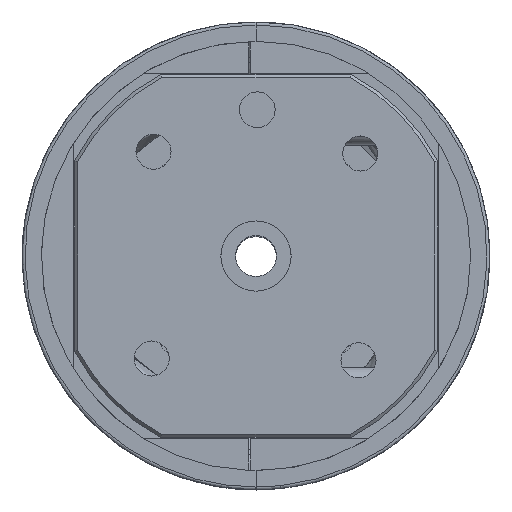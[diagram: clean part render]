
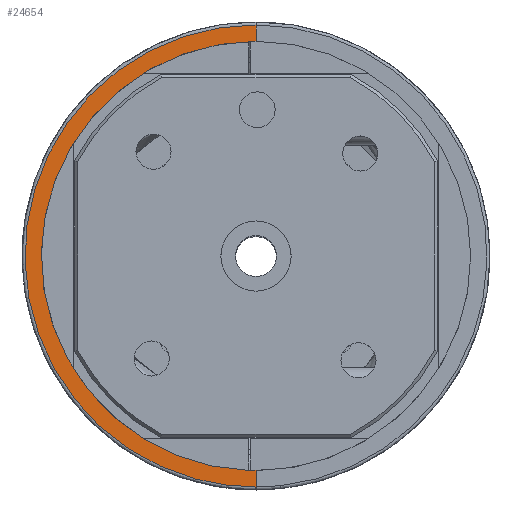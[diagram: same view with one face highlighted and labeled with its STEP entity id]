
A CAD part, top view. The second image highlights one B-rep face of the part: STEP entity #24654.
In plain terms, the highlighted planar face has unit normal (0, 0, 1) by its records, which use the part's own axes.
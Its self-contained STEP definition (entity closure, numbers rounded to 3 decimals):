
#194 = DIRECTION ( 'NONE',  ( 0., 0., -1. ) ) ;
#318 = CARTESIAN_POINT ( 'NONE',  ( -560.383, 708.451, 159.256 ) ) ;
#523 = CARTESIAN_POINT ( 'NONE',  ( -572.892, 692.252, 159.256 ) ) ;
#917 = CARTESIAN_POINT ( 'NONE',  ( -563.836, 648.729, 159.256 ) ) ;
#1331 = CARTESIAN_POINT ( 'NONE',  ( -553.86, 641.672, 159.256 ) ) ;
#1533 = CARTESIAN_POINT ( 'NONE',  ( -537.65, 637.6, 159.256 ) ) ;
#1893 = CARTESIAN_POINT ( 'NONE',  ( -536.045, 640.423, 159.256 ) ) ;
#2882 = ORIENTED_EDGE ( 'NONE', *, *, #50906, .T. ) ;
#4206 = EDGE_LOOP ( 'NONE', ( #23761, #2882, #10324, #7920, #59327 ) ) ;
#5058 = CARTESIAN_POINT ( 'NONE',  ( -563.366, 705.941, 159.256 ) ) ;
#5433 = CARTESIAN_POINT ( 'NONE',  ( -552.677, 641.111, 159.256 ) ) ;
#5640 = CARTESIAN_POINT ( 'NONE',  ( -574.585, 666.869, 159.256 ) ) ;
#5840 = CARTESIAN_POINT ( 'NONE',  ( -541.547, 637.922, 159.256 ) ) ;
#6036 = CARTESIAN_POINT ( 'NONE',  ( -572.605, 661.418, 159.256 ) ) ;
#6580 = LINE ( 'NONE', #1893, #40183 ) ;
#6605 = DIRECTION ( 'NONE',  ( -1., 0., 0. ) ) ;
#7920 = ORIENTED_EDGE ( 'NONE', *, *, #21688, .T. ) ;
#9467 = VERTEX_POINT ( 'NONE', #33236 ) ;
#10152 = CARTESIAN_POINT ( 'NONE',  ( -570.577, 657.348, 159.256 ) ) ;
#10178 = CARTESIAN_POINT ( 'NONE',  ( -560.898, 708.049, 159.256 ) ) ;
#10324 = ORIENTED_EDGE ( 'NONE', *, *, #57774, .F. ) ;
#10360 = CARTESIAN_POINT ( 'NONE',  ( -562.404, 647.408, 159.256 ) ) ;
#10559 = CARTESIAN_POINT ( 'NONE',  ( -546.625, 638.874, 159.256 ) ) ;
#10961 = CARTESIAN_POINT ( 'NONE',  ( -569.913, 656.241, 159.256 ) ) ;
#11242 = VERTEX_POINT ( 'NONE', #15647 ) ;
#11479 = CARTESIAN_POINT ( 'NONE',  ( -574.498, 687.35, 159.256 ) ) ;
#11752 = DIRECTION ( 'NONE',  ( 0., -1., 0. ) ) ;
#12246 = EDGE_CURVE ( 'NONE', #22115, #9467, #34605, .T. ) ;
#13953 = CARTESIAN_POINT ( 'NONE',  ( -574.325, 687.974, 159.256 ) ) ;
#14243 = CARTESIAN_POINT ( 'NONE',  ( -548.419, 714.715, 159.256 ) ) ;
#14628 = CARTESIAN_POINT ( 'NONE',  ( -538.951, 637.664, 159.256 ) ) ;
#14649 = CARTESIAN_POINT ( 'NONE',  ( -541.52, 716.344, 159.256 ) ) ;
#14832 = CARTESIAN_POINT ( 'NONE',  ( -557.249, 643.56, 159.256 ) ) ;
#14855 = CARTESIAN_POINT ( 'NONE',  ( -569.538, 698.522, 159.256 ) ) ;
#15242 = CARTESIAN_POINT ( 'NONE',  ( -556.144, 642.895, 159.256 ) ) ;
#15647 = CARTESIAN_POINT ( 'NONE',  ( -537.637, 640.423, 159.256 ) ) ;
#16554 = CARTESIAN_POINT ( 'NONE',  ( -574.815, 686.089, 159.256 ) ) ;
#17046 = VECTOR ( 'NONE', #28875, 1000. ) ;
#17304 = DIRECTION ( 'NONE',  ( 0., 0., 1. ) ) ;
#17505 = DIRECTION ( 'NONE',  ( 1., 0., 0. ) ) ;
#17809 = CARTESIAN_POINT ( 'NONE',  ( -536.346, 640.423, 159.256 ) ) ;
#18257 = B_SPLINE_CURVE_WITH_KNOTS ( 'NONE', 3,
 ( #23672, #32854, #14649, #18732, #37547, #14243, #19348, #56716, #47123, #18937, #51601, #56304, #28360, #318, #10178, #24287, #5058, #42827, #42417, #14855, #19140, #56507, #28977, #51803, #523, #31380, #13953, #11479, #16554, #18637, #42137, #48124, #47521, #29349, #57493, #52609, #43202, #38343, #5640, #52811, #6036, #19324, #20150, #29554, #10152, #10961, #33442, #34043, #917, #33844, #10360, #19533, #52398, #43398, #14832, #15242, #1331, #5433, #52191, #10559, #24470, #5840, #14628, #1533, #24265 ),
 .UNSPECIFIED., .F., .F.,
 ( 4, 2, 2, 2, 2, 2, 2, 2, 2, 2, 2, 2, 1, 2, 2, 2, 2, 2, 2, 2, 2, 2, 2, 2, 2, 2, 2, 2, 2, 2, 2, 2, 4 ),
 ( 0., 0.008, 0.012, 0.014, 0.015, 0.023, 0.025, 0.027, 0.031, 0.039, 0.041, 0.042, 0.046, 0.05, 0.052, 0.054, 0.062, 0.066, 0.068, 0.069, 0.077, 0.079, 0.081, 0.085, 0.093, 0.095, 0.096, 0.1, 0.104, 0.108, 0.116, 0.12, 0.123 ),
 .UNSPECIFIED. ) ;
#18637 = CARTESIAN_POINT ( 'NONE',  ( -574.958, 685.452, 159.256 ) ) ;
#18732 = CARTESIAN_POINT ( 'NONE',  ( -545.306, 715.592, 159.256 ) ) ;
#18937 = CARTESIAN_POINT ( 'NONE',  ( -553.86, 712.599, 159.256 ) ) ;
#19140 = CARTESIAN_POINT ( 'NONE',  ( -569.888, 697.97, 159.256 ) ) ;
#19225 = DIRECTION ( 'NONE',  ( 1., 0., 0. ) ) ;
#19324 = CARTESIAN_POINT ( 'NONE',  ( -572.343, 660.825, 159.256 ) ) ;
#19348 = CARTESIAN_POINT ( 'NONE',  ( -549.037, 714.511, 159.256 ) ) ;
#19533 = CARTESIAN_POINT ( 'NONE',  ( -561.915, 646.986, 159.256 ) ) ;
#20150 = CARTESIAN_POINT ( 'NONE',  ( -571.787, 659.647, 159.256 ) ) ;
#21629 = PLANE ( 'NONE',  #26856 ) ;
#21688 = EDGE_CURVE ( 'NONE', #30468, #11242, #6580, .T. ) ;
#22115 = VERTEX_POINT ( 'NONE', #49871 ) ;
#23672 = CARTESIAN_POINT ( 'NONE',  ( -536.345, 716.6, 159.256 ) ) ;
#23761 = ORIENTED_EDGE ( 'NONE', *, *, #12246, .F. ) ;
#24265 = CARTESIAN_POINT ( 'NONE',  ( -536.346, 637.6, 159.256 ) ) ;
#24287 = CARTESIAN_POINT ( 'NONE',  ( -562.408, 706.81, 159.256 ) ) ;
#24470 = CARTESIAN_POINT ( 'NONE',  ( -542.831, 638.115, 159.256 ) ) ;
#24654 = ADVANCED_FACE ( 'NONE', ( #55390 ), #21629, .T. ) ;
#26535 = CARTESIAN_POINT ( 'NONE',  ( -584.346, 629.1, 159.256 ) ) ;
#26856 = AXIS2_PLACEMENT_3D ( 'NONE', #26535, #17304, #17505 ) ;
#28107 = CARTESIAN_POINT ( 'NONE',  ( -536.346, 637.6, 159.256 ) ) ;
#28233 = CARTESIAN_POINT ( 'NONE',  ( -536.346, 677.1, 159.256 ) ) ;
#28360 = CARTESIAN_POINT ( 'NONE',  ( -559.341, 709.223, 159.256 ) ) ;
#28875 = DIRECTION ( 'NONE',  ( 0., -1., 0. ) ) ;
#28977 = CARTESIAN_POINT ( 'NONE',  ( -570.877, 696.29, 159.256 ) ) ;
#29349 = CARTESIAN_POINT ( 'NONE',  ( -575.784, 674.548, 159.256 ) ) ;
#29554 = CARTESIAN_POINT ( 'NONE',  ( -571.493, 659.064, 159.256 ) ) ;
#30468 = VERTEX_POINT ( 'NONE', #17809 ) ;
#31380 = CARTESIAN_POINT ( 'NONE',  ( -573.761, 689.828, 159.256 ) ) ;
#32854 = CARTESIAN_POINT ( 'NONE',  ( -538.955, 716.6, 159.256 ) ) ;
#33236 = CARTESIAN_POINT ( 'NONE',  ( -536.345, 713.8, 159.256 ) ) ;
#33442 = CARTESIAN_POINT ( 'NONE',  ( -567.77, 653.03, 159.256 ) ) ;
#33844 = CARTESIAN_POINT ( 'NONE',  ( -563.365, 648.279, 159.256 ) ) ;
#34043 = CARTESIAN_POINT ( 'NONE',  ( -566.139, 651.034, 159.256 ) ) ;
#34605 = LINE ( 'NONE', #38679, #17046 ) ;
#34759 = AXIS2_PLACEMENT_3D ( 'NONE', #28233, #194, #19225 ) ;
#36956 = CIRCLE ( 'NONE', #34759, 36.7 ) ;
#37479 = EDGE_CURVE ( 'NONE', #11242, #9467, #36956, .T. ) ;
#37547 = CARTESIAN_POINT ( 'NONE',  ( -546.558, 715.279, 159.256 ) ) ;
#38343 = CARTESIAN_POINT ( 'NONE',  ( -575.214, 670.035, 159.256 ) ) ;
#38679 = CARTESIAN_POINT ( 'NONE',  ( -536.346, 637.1, 159.256 ) ) ;
#40183 = VECTOR ( 'NONE', #6605, 1000. ) ;
#41784 = VERTEX_POINT ( 'NONE', #28107 ) ;
#42137 = CARTESIAN_POINT ( 'NONE',  ( -575.593, 682.265, 159.256 ) ) ;
#42417 = CARTESIAN_POINT ( 'NONE',  ( -567.734, 701.22, 159.256 ) ) ;
#42827 = CARTESIAN_POINT ( 'NONE',  ( -566.099, 703.208, 159.256 ) ) ;
#43202 = CARTESIAN_POINT ( 'NONE',  ( -575.325, 670.673, 159.256 ) ) ;
#43398 = CARTESIAN_POINT ( 'NONE',  ( -559.387, 644.991, 159.256 ) ) ;
#46575 = LINE ( 'NONE', #58301, #58275 ) ;
#47123 = CARTESIAN_POINT ( 'NONE',  ( -550.87, 713.838, 159.256 ) ) ;
#47521 = CARTESIAN_POINT ( 'NONE',  ( -575.846, 675.839, 159.256 ) ) ;
#48124 = CARTESIAN_POINT ( 'NONE',  ( -575.844, 679.703, 159.256 ) ) ;
#49871 = CARTESIAN_POINT ( 'NONE',  ( -536.345, 716.6, 159.256 ) ) ;
#50906 = EDGE_CURVE ( 'NONE', #22115, #41784, #18257, .T. ) ;
#51601 = CARTESIAN_POINT ( 'NONE',  ( -556.128, 711.386, 159.256 ) ) ;
#51803 = CARTESIAN_POINT ( 'NONE',  ( -571.791, 694.58, 159.256 ) ) ;
#52191 = CARTESIAN_POINT ( 'NONE',  ( -549.087, 639.622, 159.256 ) ) ;
#52398 = CARTESIAN_POINT ( 'NONE',  ( -560.42, 645.758, 159.256 ) ) ;
#52609 = CARTESIAN_POINT ( 'NONE',  ( -575.515, 671.957, 159.256 ) ) ;
#52811 = CARTESIAN_POINT ( 'NONE',  ( -573.84, 664.407, 159.256 ) ) ;
#55390 = FACE_OUTER_BOUND ( 'NONE', #4206, .T. ) ;
#56304 = CARTESIAN_POINT ( 'NONE',  ( -558.812, 709.595, 159.256 ) ) ;
#56507 = CARTESIAN_POINT ( 'NONE',  ( -570.557, 696.854, 159.256 ) ) ;
#56716 = CARTESIAN_POINT ( 'NONE',  ( -550.265, 714.072, 159.256 ) ) ;
#57493 = CARTESIAN_POINT ( 'NONE',  ( -575.594, 672.606, 159.256 ) ) ;
#57774 = EDGE_CURVE ( 'NONE', #30468, #41784, #46575, .T. ) ;
#58275 = VECTOR ( 'NONE', #11752, 1000. ) ;
#58301 = CARTESIAN_POINT ( 'NONE',  ( -536.346, 637.1, 159.256 ) ) ;
#59327 = ORIENTED_EDGE ( 'NONE', *, *, #37479, .T. ) ;
